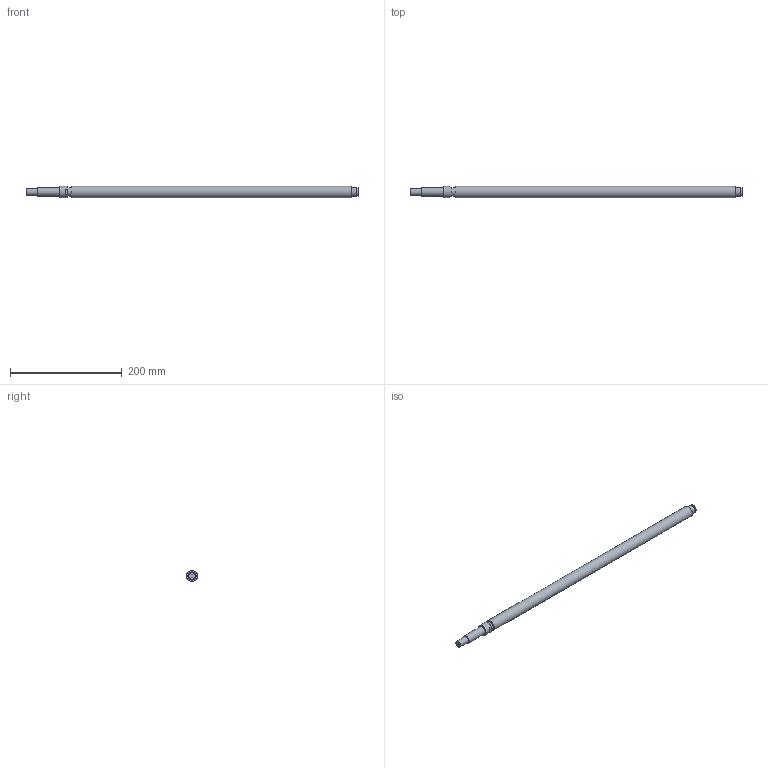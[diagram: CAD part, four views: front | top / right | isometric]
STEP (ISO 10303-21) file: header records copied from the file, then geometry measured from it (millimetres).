
FILE_DESCRIPTION((''),'2;1');
FILE_NAME('D:\製品 (図面)\カタログ用3D\ネジ関連\STEP形式\JK\JK20.stp','2010-06-11T10:54:30',('Tsuchiya'),(''),'Autodesk Inventor 10','Autodesk Inventor 10','');
FILE_SCHEMA(('AUTOMOTIVE_DESIGN { 1 0 10303 214 1 1 1 1 }'));
Length unit declared in the file: millimetre
Products named in the file (1): JK20
Bounding box: 593 x 20 x 20 mm (x, y, z)
Volume: 174177.8 mm3; surface area: 36772.9 mm2
Topology: 1 solids, 1 shells, 21 faces, 36 edges, 24 vertices
Faces by surface type: plane 13, cylinder 8
Full cylindrical faces by diameter (mm): 12 x1, 14.3 x1, 15 x4, 20 x2
Entity records: 483 total; most frequent: DIRECTION 90, CARTESIAN_POINT 72, ORIENTED_EDGE 54, AXIS2_PLACEMENT_3D 41, EDGE_LOOP 36, EDGE_CURVE 27, VERTEX_POINT 23, FACE_OUTER_BOUND 21
